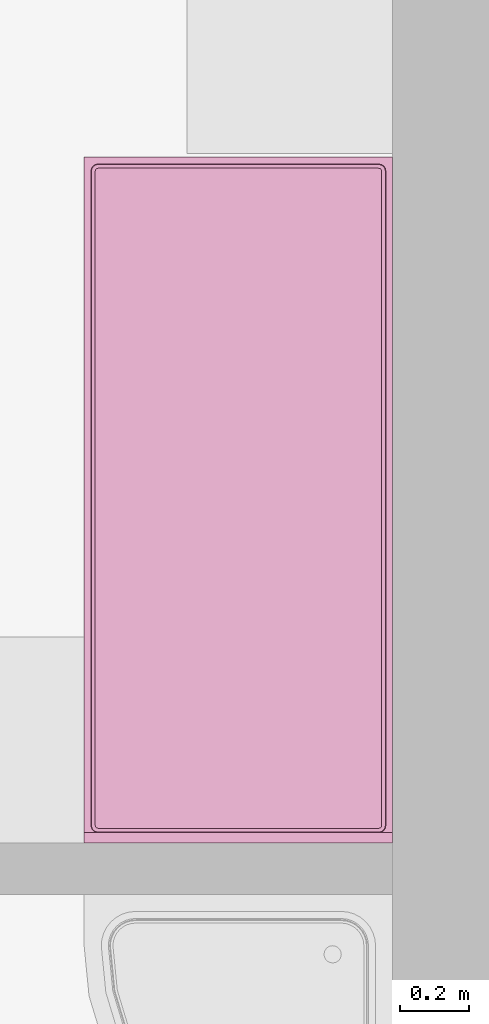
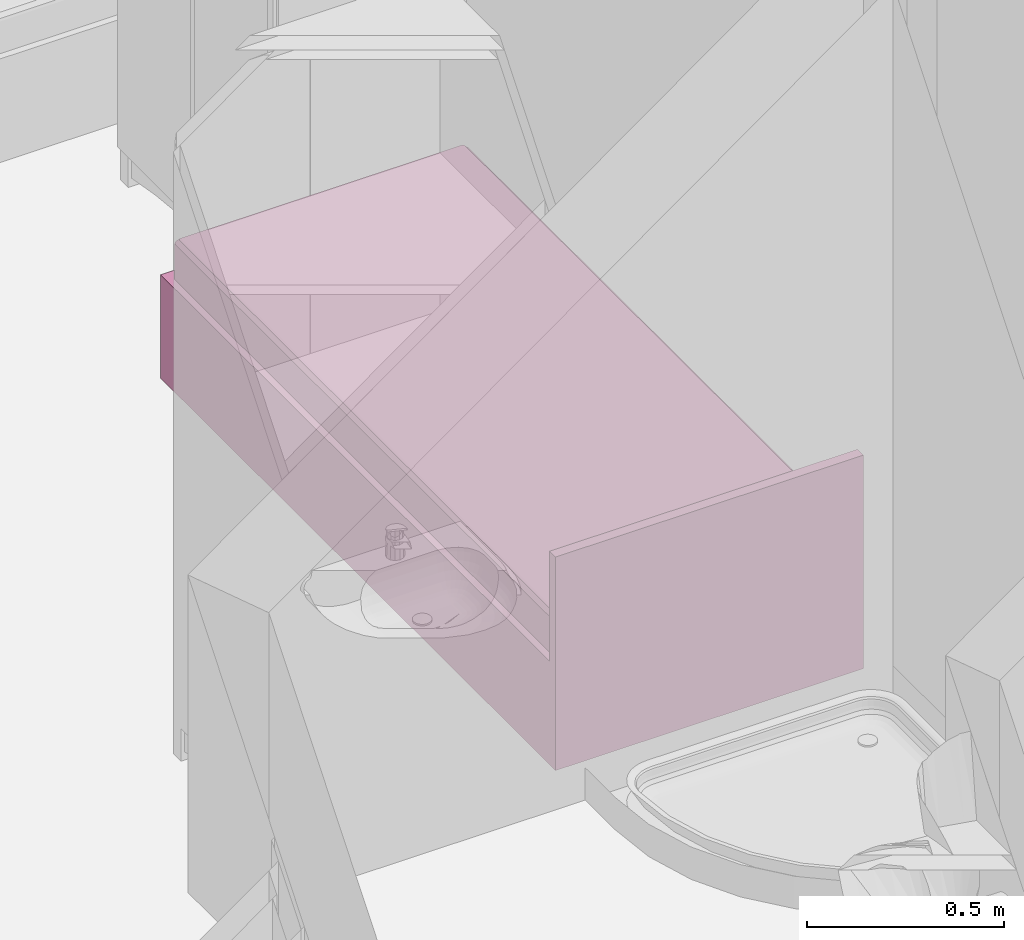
# One storey, part 150 of 172: 1 furnishing.
"""IFC2X3 building model written with IfcOpenShell, lengths in millimetres."""

from ifc_helpers import new_model, entity, si_unit, converted_unit, money_unit, direction, frame, origin_with_axes, place, context, subcontext, project, spatial, faceted_brep, source, transform, mapped, material, material_list, type_object, element, save


model = new_model("IFC2X3")

# Units and contexts
model_context = context("Model", 3, precision=1e-05, world=origin_with_axes(), true_north=direction((0.0, 1.0)))
body_context = subcontext(model_context, "Body", "Model", "MODEL_VIEW")
ifc_project = project(units=[si_unit("LENGTHUNIT", "METRE", prefix="MILLI"), si_unit("AREAUNIT", "SQUARE_METRE"), si_unit("VOLUMEUNIT", "CUBIC_METRE"), converted_unit("PLANEANGLEUNIT", "DEGREE", entity("IfcPlaneAngleMeasure", 0.0174532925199), si_unit("PLANEANGLEUNIT", "RADIAN"), dimensions=[0, 0, 0, 0, 0, 0, 0]), si_unit("SOLIDANGLEUNIT", "STERADIAN"), money_unit("USD"), converted_unit("TIMEUNIT", "Year", entity("IfcTimeMeasure", 31556926.0), si_unit("TIMEUNIT", "SECOND"), dimensions=[0, 0, 0, 0, 0, 0, 0]), si_unit("MASSUNIT", "GRAM"), si_unit("THERMODYNAMICTEMPERATUREUNIT", "DEGREE_CELSIUS"), si_unit("LUMINOUSINTENSITYUNIT", "LUMEN")], contexts=[model_context])

# Site, building, storey
site_placement = place(None, origin_with_axes())
site = spatial("IfcSite", under=ifc_project, at=site_placement, Name="Site", CompositionType="ELEMENT")
building_placement = place(site_placement, origin_with_axes())
building = spatial("IfcBuilding", under=site, at=building_placement, Name="Building", CompositionType="ELEMENT")
storey_placement = place(building_placement, frame((0.0, 0.0, 3200.0), z_axis=(0.0, 0.0, 1.0), x_axis=(1.0, 0.0, 0.0)))
storey = spatial("IfcBuildingStorey", under=building, at=storey_placement, Name="3KORRUS", CompositionType="ELEMENT", Elevation=3200.0)

# Furnishing
ifc_material = material(Name="Background")
ifc_material_list = material_list([ifc_material])
furnishing_element_type = type_object("IfcFurnishingElementType", Name="Bed 19")
shared_shape = source(origin_with_axes(), body_context, "Body", "Brep", [
    faceted_brep([(-900.0, 1970.0, 0.0), (-900.0, 2000.0, 0.0), (0.0, 2000.0, 0.0), (0.0, 1970.0, 0.0), (-900.0, 1970.0, 660.0), (-900.0, 2000.0, 660.0), (0.0, 2000.0, 660.0), (0.0, 1970.0, 660.0)], [[[0, 1, 2, 3]], [[0, 4, 5, 1]], [[1, 5, 6, 2]], [[2, 6, 7, 3]], [[3, 7, 4, 0]], [[7, 6, 5, 4]]]),
    faceted_brep([(-900.0, 0.0, 0.0), (-900.0, 1970.0, 0.0), (0.0, 1970.0, 0.0), (0.0, 0.0, 0.0), (-900.0, 0.0, 320.0), (-900.0, 1970.0, 320.0), (0.0, 1970.0, 320.0), (0.0, 0.0, 320.0)], [[[0, 1, 2, 3]], [[0, 4, 5, 1]], [[1, 5, 6, 2]], [[2, 6, 7, 3]], [[3, 7, 4, 0]], [[7, 6, 5, 4]]]),
    faceted_brep([(-905.0, 10.0, 30.0), (-905.0, 695.0, 30.0), (-900.0, 695.0, 30.0), (-900.0, 10.0, 30.0), (-905.0, 10.0, 290.0), (-905.0, 695.0, 290.0), (-900.0, 695.0, 290.0), (-900.0, 10.0, 290.0)], [[[0, 1, 2, 3]], [[0, 4, 5, 1]], [[1, 5, 6, 2]], [[2, 6, 7, 3]], [[3, 7, 4, 0]], [[7, 6, 5, 4]]]),
    faceted_brep([(-935.0, 307.5, 150.0), (-935.0, 397.5, 150.0), (-905.0, 397.5, 150.0), (-905.0, 307.5, 150.0), (-935.0, 307.5, 170.0), (-935.0, 397.5, 170.0), (-905.0, 397.5, 170.0), (-905.0, 307.5, 170.0)], [[[0, 1, 2, 3]], [[0, 4, 5, 1]], [[1, 5, 6, 2]], [[2, 6, 7, 3]], [[3, 7, 4, 0]], [[7, 6, 5, 4]]]),
    faceted_brep([(-905.0, 705.0, 30.0), (-905.0, 1390.0, 30.0), (-900.0, 1390.0, 30.0), (-900.0, 705.0, 30.0), (-905.0, 705.0, 290.0), (-905.0, 1390.0, 290.0), (-900.0, 1390.0, 290.0), (-900.0, 705.0, 290.0)], [[[0, 1, 2, 3]], [[0, 4, 5, 1]], [[1, 5, 6, 2]], [[2, 6, 7, 3]], [[3, 7, 4, 0]], [[7, 6, 5, 4]]]),
    faceted_brep([(-935.0, 1002.5, 150.0), (-935.0, 1092.5, 150.0), (-905.0, 1092.5, 150.0), (-905.0, 1002.5, 150.0), (-935.0, 1002.5, 170.0), (-935.0, 1092.5, 170.0), (-905.0, 1092.5, 170.0), (-905.0, 1002.5, 170.0)], [[[0, 1, 2, 3]], [[0, 4, 5, 1]], [[1, 5, 6, 2]], [[2, 6, 7, 3]], [[3, 7, 4, 0]], [[7, 6, 5, 4]]]),
    faceted_brep([(-20.0, 40.0, 350.0), (-21.522, 32.346, 350.0), (-25.858, 25.858, 350.0), (-32.346, 21.522, 350.0), (-40.0, 20.0, 350.0), (-860.0, 20.0, 350.0), (-867.654, 21.522, 350.0), (-874.142, 25.858, 350.0), (-878.478, 32.346, 350.0), (-880.0, 40.0, 350.0), (-880.0, 1950.0, 350.0), (-878.478, 1957.654, 350.0), (-874.142, 1964.142, 350.0), (-867.654, 1968.478, 350.0), (-860.0, 1970.0, 350.0), (-40.0, 1970.0, 350.0), (-32.346, 1968.478, 350.0), (-25.858, 1964.142, 350.0), (-21.522, 1957.654, 350.0), (-20.0, 1950.0, 350.0), (-20.0, 40.0, 420.0), (-21.522, 32.346, 420.0), (-25.858, 25.858, 420.0), (-32.346, 21.522, 420.0), (-40.0, 20.0, 420.0), (-860.0, 20.0, 420.0), (-867.654, 21.522, 420.0), (-874.142, 25.858, 420.0), (-878.478, 32.346, 420.0), (-880.0, 40.0, 420.0), (-880.0, 1950.0, 420.0), (-878.478, 1957.654, 420.0), (-874.142, 1964.142, 420.0), (-867.654, 1968.478, 420.0), (-860.0, 1970.0, 420.0), (-40.0, 1970.0, 420.0), (-32.346, 1968.478, 420.0), (-25.858, 1964.142, 420.0), (-21.522, 1957.654, 420.0), (-20.0, 1950.0, 420.0), (-21.522, 40.15, 427.654), (-22.956, 32.94, 427.654), (-26.955, 26.955, 427.654), (-32.94, 22.956, 427.654), (-40.15, 21.522, 427.654), (-859.85, 21.522, 427.654), (-867.06, 22.956, 427.654), (-873.045, 26.955, 427.654), (-877.044, 32.94, 427.654), (-878.478, 40.15, 427.654), (-878.478, 1949.85, 427.654), (-877.044, 1957.06, 427.654), (-873.045, 1963.045, 427.654), (-867.06, 1967.044, 427.654), (-859.85, 1968.478, 427.654), (-40.15, 1968.478, 427.654), (-32.94, 1967.044, 427.654), (-26.955, 1963.045, 427.654), (-22.956, 1957.06, 427.654), (-21.522, 1949.85, 427.654), (-32.346, 41.216, 438.478), (-33.152, 37.164, 438.478), (-34.759, 34.759, 438.478), (-37.164, 33.152, 438.478), (-41.216, 32.346, 438.478), (-858.784, 32.346, 438.478), (-862.836, 33.152, 438.478), (-865.241, 34.759, 438.478), (-866.848, 37.164, 438.478), (-867.654, 41.216, 438.478), (-867.654, 1948.784, 438.478), (-866.848, 1952.836, 438.478), (-865.241, 1955.241, 438.478), (-862.836, 1956.848, 438.478), (-858.784, 1957.654, 438.478), (-41.216, 1957.654, 438.478), (-37.164, 1956.848, 438.478), (-34.759, 1955.241, 438.478), (-33.152, 1952.836, 438.478), (-32.346, 1948.784, 438.478), (-40.0, 41.97, 440.0), (-40.327, 40.327, 440.0), (-40.0, 40.0, 439.924), (-41.97, 40.0, 440.0), (-858.03, 40.0, 440.0), (-859.673, 40.327, 440.0), (-860.0, 40.0, 439.924), (-860.0, 41.97, 440.0), (-860.0, 1948.03, 440.0), (-859.673, 1949.673, 440.0), (-860.0, 1950.0, 439.924), (-858.03, 1950.0, 440.0), (-41.97, 1950.0, 440.0), (-40.327, 1949.673, 440.0), (-40.0, 1950.0, 439.924), (-40.0, 1948.03, 440.0)], [[[0, 1, 2, 3, 4, 5, 6, 7, 8, 9, 10, 11, 12, 13, 14, 15, 16, 17, 18, 19]], [[0, 20, 21, 1]], [[1, 21, 22, 2]], [[2, 22, 23, 3]], [[3, 23, 24, 4]], [[4, 24, 25, 5]], [[5, 25, 26, 6]], [[6, 26, 27, 7]], [[7, 27, 28, 8]], [[8, 28, 29, 9]], [[9, 29, 30, 10]], [[10, 30, 31, 11]], [[11, 31, 32, 12]], [[12, 32, 33, 13]], [[13, 33, 34, 14]], [[14, 34, 35, 15]], [[15, 35, 36, 16]], [[16, 36, 37, 17]], [[17, 37, 38, 18]], [[18, 38, 39, 19]], [[19, 39, 20, 0]], [[20, 40, 41, 21]], [[21, 41, 42, 22]], [[22, 42, 43, 23]], [[23, 43, 44, 24]], [[24, 44, 45, 25]], [[25, 45, 46, 26]], [[26, 46, 47, 27]], [[27, 47, 48, 28]], [[28, 48, 49, 29]], [[29, 49, 50, 30]], [[30, 50, 51, 31]], [[31, 51, 52, 32]], [[32, 52, 53, 33]], [[33, 53, 54, 34]], [[34, 54, 55, 35]], [[35, 55, 56, 36]], [[36, 56, 57, 37]], [[37, 57, 58, 38]], [[38, 58, 59, 39]], [[39, 59, 40, 20]], [[40, 60, 61, 41]], [[41, 61, 62, 42]], [[42, 62, 63, 43]], [[43, 63, 64, 44]], [[44, 64, 65, 45]], [[45, 65, 66, 46]], [[46, 66, 67, 47]], [[47, 67, 68, 48]], [[48, 68, 69, 49]], [[49, 69, 70, 50]], [[50, 70, 71, 51]], [[51, 71, 72, 52]], [[52, 72, 73, 53]], [[53, 73, 74, 54]], [[54, 74, 75, 55]], [[55, 75, 76, 56]], [[56, 76, 77, 57]], [[57, 77, 78, 58]], [[58, 78, 79, 59]], [[59, 79, 60, 40]], [[60, 80, 81, 82, 61]], [[61, 82, 62]], [[62, 82, 63]], [[63, 82, 81, 83, 64]], [[64, 83, 84, 65]], [[65, 84, 85, 86, 66]], [[66, 86, 67]], [[67, 86, 68]], [[68, 86, 85, 87, 69]], [[69, 87, 88, 70]], [[70, 88, 89, 90, 71]], [[71, 90, 72]], [[72, 90, 73]], [[73, 90, 89, 91, 74]], [[74, 91, 92, 75]], [[75, 92, 93, 94, 76]], [[76, 94, 77]], [[77, 94, 78]], [[78, 94, 93, 95, 79]], [[79, 95, 80, 60]], [[95, 93, 92, 91, 89, 88, 87, 85, 84, 83, 81, 80]]]),
    faceted_brep([(-20.0, 40.0, 350.0), (-20.0, 1950.0, 350.0), (-21.522, 1957.654, 350.0), (-25.858, 1964.142, 350.0), (-32.346, 1968.478, 350.0), (-40.0, 1970.0, 350.0), (-860.0, 1970.0, 350.0), (-867.654, 1968.478, 350.0), (-874.142, 1964.142, 350.0), (-878.478, 1957.654, 350.0), (-880.0, 1950.0, 350.0), (-880.0, 40.0, 350.0), (-878.478, 32.346, 350.0), (-874.142, 25.858, 350.0), (-867.654, 21.522, 350.0), (-860.0, 20.0, 350.0), (-40.0, 20.0, 350.0), (-32.346, 21.522, 350.0), (-25.858, 25.858, 350.0), (-21.522, 32.346, 350.0), (-20.0, 40.0, 320.0), (-20.0, 1950.0, 320.0), (-21.522, 1957.654, 320.0), (-25.858, 1964.142, 320.0), (-32.346, 1968.478, 320.0), (-40.0, 1970.0, 320.0), (-860.0, 1970.0, 320.0), (-867.654, 1968.478, 320.0), (-874.142, 1964.142, 320.0), (-878.478, 1957.654, 320.0), (-880.0, 1950.0, 320.0), (-880.0, 40.0, 320.0), (-878.478, 32.346, 320.0), (-874.142, 25.858, 320.0), (-867.654, 21.522, 320.0), (-860.0, 20.0, 320.0), (-40.0, 20.0, 320.0), (-32.346, 21.522, 320.0), (-25.858, 25.858, 320.0), (-21.522, 32.346, 320.0)], [[[0, 1, 2, 3, 4, 5, 6, 7, 8, 9, 10, 11, 12, 13, 14, 15, 16, 17, 18, 19]], [[1, 0, 20, 21]], [[2, 1, 21, 22]], [[3, 2, 22, 23]], [[4, 3, 23, 24]], [[5, 4, 24, 25]], [[6, 5, 25, 26]], [[7, 6, 26, 27]], [[8, 7, 27, 28]], [[9, 8, 28, 29]], [[10, 9, 29, 30]], [[11, 10, 30, 31]], [[12, 11, 31, 32]], [[13, 12, 32, 33]], [[14, 13, 33, 34]], [[15, 14, 34, 35]], [[16, 15, 35, 36]], [[17, 16, 36, 37]], [[18, 17, 37, 38]], [[19, 18, 38, 39]], [[0, 19, 39, 20]], [[20, 39, 38, 37, 36, 35, 34, 33, 32, 31, 30, 29, 28, 27, 26, 25, 24, 23, 22, 21]]]),
])
furnishing_placement = place(storey_placement, frame((10809.7032967, -7217.37850445, 0.0), z_axis=(0.0, 0.0, 1.0), x_axis=(-1.0, 0.0, 0.0)))
element("IfcFurnishingElement", 1, at=furnishing_placement, inside=storey, type_object=furnishing_element_type, material=ifc_material_list, Name="FU - 013", context=body_context, shape_type="MappedRepresentation", body=[
    mapped(shared_shape, transform((0.0, 0.0, 0.0))),
])

save(model, "model.ifc")
